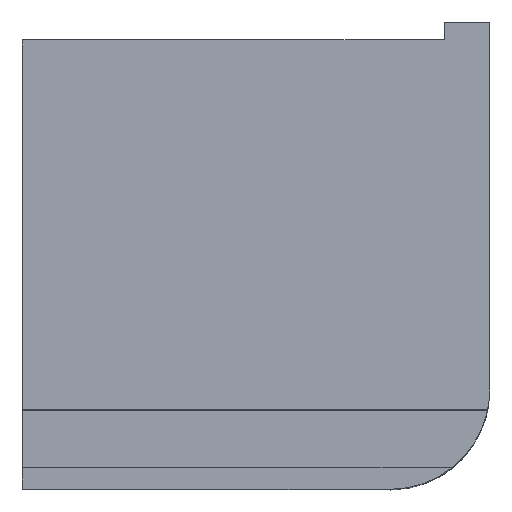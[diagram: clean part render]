
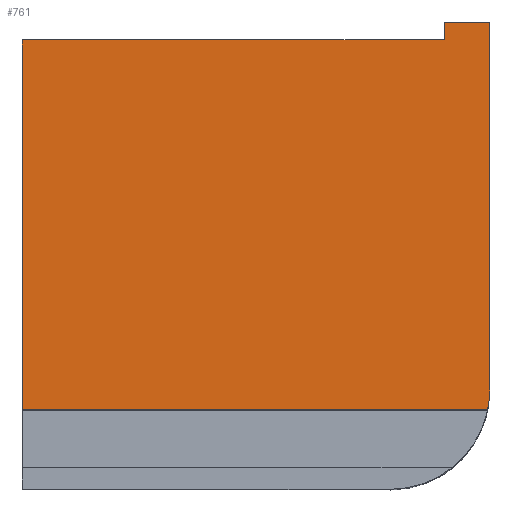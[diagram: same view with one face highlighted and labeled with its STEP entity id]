
A CAD part, top view. The second image highlights one B-rep face of the part: STEP entity #761.
In plain terms, the highlighted planar face has unit normal (0, 0, 1).
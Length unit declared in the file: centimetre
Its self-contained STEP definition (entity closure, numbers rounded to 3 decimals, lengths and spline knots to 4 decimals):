
#4 = CARTESIAN_POINT ( 'NONE',  ( 787.29, 212.71, 1000. ) ) ;
#8 = CARTESIAN_POINT ( 'NONE',  ( 995.6072, 169.7042, 1000. ) ) ;
#53 = AXIS2_PLACEMENT_3D ( 'NONE', #1011, #529, #57 ) ;
#57 = DIRECTION ( 'NONE',  ( 1., 0., 0. ) ) ;
#76 = DIRECTION ( 'NONE',  ( -1., 0., 0. ) ) ;
#90 = CARTESIAN_POINT ( 'NONE',  ( 0., 1000., 1000. ) ) ;
#97 = ORIENTED_EDGE ( 'NONE', *, *, #436, .T. ) ;
#109 = CARTESIAN_POINT ( 'NONE',  ( 902.7549, 1000., 1000. ) ) ;
#114 = EDGE_CURVE ( 'NONE', #1242, #438, #1056, .T. ) ;
#171 = EDGE_CURVE ( 'NONE', #1242, #231, #1013, .T. ) ;
#215 = CARTESIAN_POINT ( 'NONE',  ( 902.7549, 1000., 1000. ) ) ;
#216 = CARTESIAN_POINT ( 'NONE',  ( 1000., 212.71, 1000. ) ) ;
#225 = CARTESIAN_POINT ( 'NONE',  ( 902.7549, 961.5046, 1000. ) ) ;
#231 = VERTEX_POINT ( 'NONE', #216 ) ;
#275 = ORIENTED_EDGE ( 'NONE', *, *, #547, .F. ) ;
#297 = DIRECTION ( 'NONE',  ( 0., 0., 1. ) ) ;
#343 = ORIENTED_EDGE ( 'NONE', *, *, #114, .F. ) ;
#390 = LINE ( 'NONE', #563, #641 ) ;
#415 = DIRECTION ( 'NONE',  ( 0., 1., 0. ) ) ;
#436 = EDGE_CURVE ( 'NONE', #231, #500, #712, .T. ) ;
#438 = VERTEX_POINT ( 'NONE', #1072 ) ;
#439 = LINE ( 'NONE', #1220, #876 ) ;
#477 = DIRECTION ( 'NONE',  ( -1., 0., 0. ) ) ;
#491 = VECTOR ( 'NONE', #415, 100. ) ;
#494 = VERTEX_POINT ( 'NONE', #215 ) ;
#500 = VERTEX_POINT ( 'NONE', #518 ) ;
#518 = CARTESIAN_POINT ( 'NONE',  ( 1000., 1000., 1000. ) ) ;
#525 = CARTESIAN_POINT ( 'NONE',  ( 1000., 1000., 1000. ) ) ;
#529 = DIRECTION ( 'NONE',  ( 0., 0., 1. ) ) ;
#547 = EDGE_CURVE ( 'NONE', #698, #494, #796, .T. ) ;
#548 = FACE_OUTER_BOUND ( 'NONE', #1252, .T. ) ;
#563 = CARTESIAN_POINT ( 'NONE',  ( 902.7549, 961.5046, 1000. ) ) ;
#571 = AXIS2_PLACEMENT_3D ( 'NONE', #4, #297, #780 ) ;
#572 = LINE ( 'NONE', #90, #1214 ) ;
#627 = CARTESIAN_POINT ( 'NONE',  ( 0., 961.5046, 1000. ) ) ;
#638 = ORIENTED_EDGE ( 'NONE', *, *, #1192, .T. ) ;
#641 = VECTOR ( 'NONE', #477, 100. ) ;
#698 = VERTEX_POINT ( 'NONE', #225 ) ;
#712 = LINE ( 'NONE', #525, #491 ) ;
#732 = VECTOR ( 'NONE', #1171, 100. ) ;
#754 = VECTOR ( 'NONE', #76, 100. ) ;
#761 = ADVANCED_FACE ( 'NONE', ( #548 ), #833, .T. ) ;
#772 = CARTESIAN_POINT ( 'NONE',  ( 1000., 169.7042, 1000. ) ) ;
#780 = DIRECTION ( 'NONE',  ( 1., 0., 0. ) ) ;
#788 = VERTEX_POINT ( 'NONE', #627 ) ;
#796 = LINE ( 'NONE', #109, #732 ) ;
#833 = PLANE ( 'NONE',  #53 ) ;
#840 = EDGE_CURVE ( 'NONE', #500, #494, #439, .T. ) ;
#846 = DIRECTION ( 'NONE',  ( 0., -1., 0. ) ) ;
#876 = VECTOR ( 'NONE', #1017, 100. ) ;
#918 = ORIENTED_EDGE ( 'NONE', *, *, #1238, .T. ) ;
#1011 = CARTESIAN_POINT ( 'NONE',  ( 0., 0., 1000. ) ) ;
#1013 = CIRCLE ( 'NONE', #571, 212.71 ) ;
#1017 = DIRECTION ( 'NONE',  ( -1., 0., 0. ) ) ;
#1056 = LINE ( 'NONE', #772, #754 ) ;
#1072 = CARTESIAN_POINT ( 'NONE',  ( 0., 169.7042, 1000. ) ) ;
#1168 = ORIENTED_EDGE ( 'NONE', *, *, #171, .T. ) ;
#1171 = DIRECTION ( 'NONE',  ( 0., 1., 0. ) ) ;
#1192 = EDGE_CURVE ( 'NONE', #788, #438, #572, .T. ) ;
#1213 = ORIENTED_EDGE ( 'NONE', *, *, #840, .T. ) ;
#1214 = VECTOR ( 'NONE', #846, 100. ) ;
#1220 = CARTESIAN_POINT ( 'NONE',  ( 0., 1000., 1000. ) ) ;
#1238 = EDGE_CURVE ( 'NONE', #698, #788, #390, .T. ) ;
#1242 = VERTEX_POINT ( 'NONE', #8 ) ;
#1252 = EDGE_LOOP ( 'NONE', ( #918, #638, #343, #1168, #97, #1213, #275 ) ) ;
